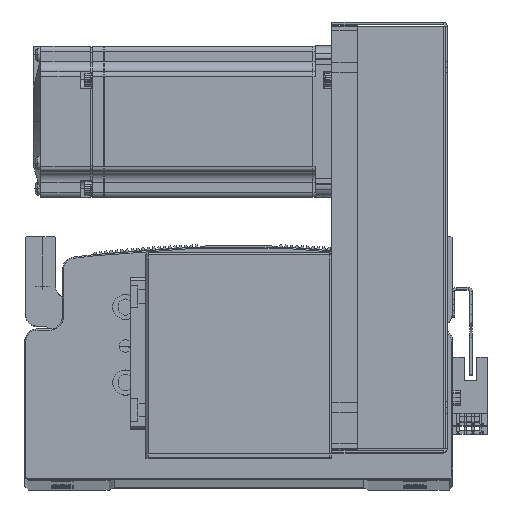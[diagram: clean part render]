
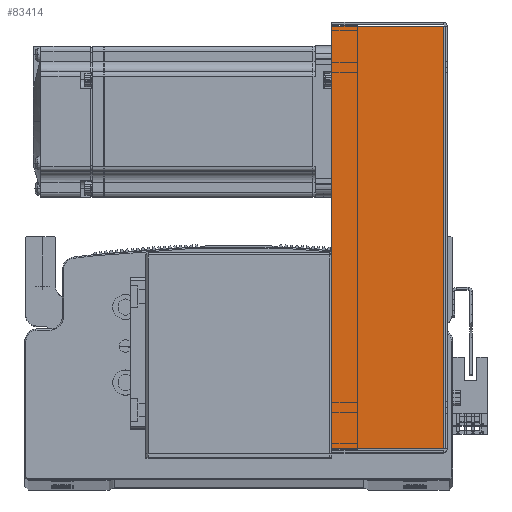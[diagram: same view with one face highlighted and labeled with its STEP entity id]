
A CAD part, top view. The second image highlights one B-rep face of the part: STEP entity #83414.
In plain terms, the highlighted planar face has unit normal (0, 0, 1).
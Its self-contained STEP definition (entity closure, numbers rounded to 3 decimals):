
#9184 = CARTESIAN_POINT ( 'NONE',  ( 83.793, 0.737, 40.5 ) ) ;
#9187 = CARTESIAN_POINT ( 'NONE',  ( -83.793, 0.737, 40.5 ) ) ;
#9228 = CARTESIAN_POINT ( 'NONE',  ( -83.793, 45., 40.5 ) ) ;
#15918 = CARTESIAN_POINT ( 'NONE',  ( 83.793, 0., 40.5 ) ) ;
#15919 = DIRECTION ( 'NONE',  ( 0., 1., 0. ) ) ;
#15949 = CARTESIAN_POINT ( 'NONE',  ( -83.793, 0., 40.5 ) ) ;
#15965 = CARTESIAN_POINT ( 'NONE',  ( -84.5, 45., 40.5 ) ) ;
#15972 = DIRECTION ( 'NONE',  ( -1., 0., 0. ) ) ;
#15980 = DIRECTION ( 'NONE',  ( 0., 1., 0. ) ) ;
#16179 = DIRECTION ( 'NONE',  ( -1., 0., 0. ) ) ;
#16223 = CARTESIAN_POINT ( 'NONE',  ( 0., 0.737, 40.5 ) ) ;
#22020 = VERTEX_POINT ( 'NONE', #27340 ) ;
#22095 = VERTEX_POINT ( 'NONE', #9184 ) ;
#22097 = VERTEX_POINT ( 'NONE', #9187 ) ;
#22117 = VERTEX_POINT ( 'NONE', #9228 ) ;
#23366 = LINE ( 'NONE', #15949, #23371 ) ;
#23371 = VECTOR ( 'NONE', #15980, 1000. ) ;
#23381 = LINE ( 'NONE', #15965, #23418 ) ;
#23404 = LINE ( 'NONE', #15918, #23405 ) ;
#23405 = VECTOR ( 'NONE', #15919, 1000. ) ;
#23418 = VECTOR ( 'NONE', #15972, 1000. ) ;
#23427 = VECTOR ( 'NONE', #16179, 1000. ) ;
#23461 = LINE ( 'NONE', #16223, #23427 ) ;
#27340 = CARTESIAN_POINT ( 'NONE',  ( 83.793, 45., 40.5 ) ) ;
#30366 = EDGE_LOOP ( 'NONE', ( #53073, #53110, #53065, #53074 ) ) ;
#53065 = ORIENTED_EDGE ( 'NONE', *, *, #66912, .T. ) ;
#53073 = ORIENTED_EDGE ( 'NONE', *, *, #66995, .F. ) ;
#53074 = ORIENTED_EDGE ( 'NONE', *, *, #66898, .F. ) ;
#53110 = ORIENTED_EDGE ( 'NONE', *, *, #66876, .T. ) ;
#55911 = AXIS2_PLACEMENT_3D ( 'NONE', #73440, #73444, #73446 ) ;
#65812 = FACE_OUTER_BOUND ( 'NONE', #30366, .T. ) ;
#66876 = EDGE_CURVE ( 'NONE', #22095, #22020, #23404, .T. ) ;
#66898 = EDGE_CURVE ( 'NONE', #22097, #22117, #23366, .T. ) ;
#66912 = EDGE_CURVE ( 'NONE', #22020, #22117, #23381, .T. ) ;
#66995 = EDGE_CURVE ( 'NONE', #22095, #22097, #23461, .T. ) ;
#73440 = CARTESIAN_POINT ( 'NONE',  ( 0., 0., 40.5 ) ) ;
#73444 = DIRECTION ( 'NONE',  ( 0., 0., -1. ) ) ;
#73446 = DIRECTION ( 'NONE',  ( -1., 0., 0. ) ) ;
#73458 = PLANE ( 'NONE',  #55911 ) ;
#83414 = ADVANCED_FACE ( 'NONE', ( #65812 ), #73458, .F. ) ;
